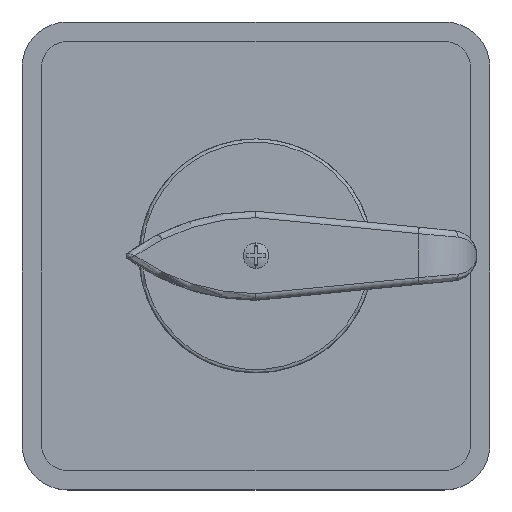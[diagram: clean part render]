
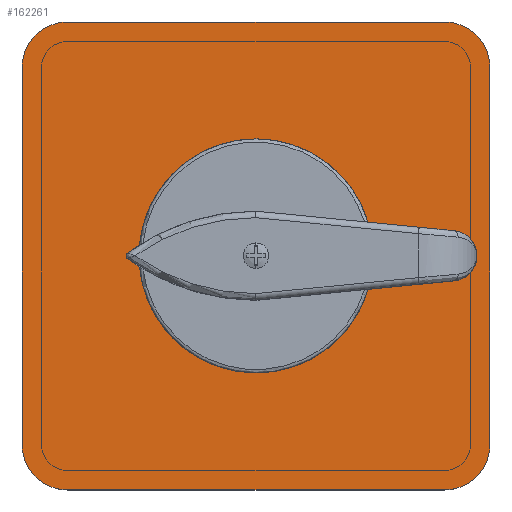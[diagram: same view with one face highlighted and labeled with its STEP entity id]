
A CAD part, top view. The second image highlights one B-rep face of the part: STEP entity #162261.
In plain terms, the highlighted planar face has unit normal (0, 0, 1).
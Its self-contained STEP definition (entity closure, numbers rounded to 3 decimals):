
#47844=CARTESIAN_POINT('',(29.,29.,3.35));
#47845=DIRECTION('',(0.,0.,1.));
#47846=DIRECTION('',(1.,0.,0.));
#47847=AXIS2_PLACEMENT_3D('',#47844,#47845,#47846);
#47849=DIRECTION('',(0.,1.,0.));
#47850=VECTOR('',#47849,58.);
#47851=CARTESIAN_POINT('',(36.,-29.,3.35));
#47852=LINE('',#47851,#47850);
#47853=CARTESIAN_POINT('',(29.,-29.,3.35));
#47854=DIRECTION('',(0.,0.,1.));
#47855=DIRECTION('',(0.,-1.,0.));
#47856=AXIS2_PLACEMENT_3D('',#47853,#47854,#47855);
#47858=DIRECTION('',(1.,0.,0.));
#47859=VECTOR('',#47858,58.);
#47860=CARTESIAN_POINT('',(-29.,-36.,3.35));
#47861=LINE('',#47860,#47859);
#47862=CARTESIAN_POINT('',(-29.,-29.,3.35));
#47863=DIRECTION('',(0.,0.,1.));
#47864=DIRECTION('',(-1.,0.,0.));
#47865=AXIS2_PLACEMENT_3D('',#47862,#47863,#47864);
#47867=DIRECTION('',(0.,-1.,0.));
#47868=VECTOR('',#47867,58.);
#47869=CARTESIAN_POINT('',(-36.,29.,3.35));
#47870=LINE('',#47869,#47868);
#47871=CARTESIAN_POINT('',(-29.,29.,3.35));
#47872=DIRECTION('',(0.,0.,1.));
#47873=DIRECTION('',(0.,1.,0.));
#47874=AXIS2_PLACEMENT_3D('',#47871,#47872,#47873);
#47876=DIRECTION('',(-1.,0.,0.));
#47877=VECTOR('',#47876,58.);
#47878=CARTESIAN_POINT('',(29.,36.,3.35));
#47879=LINE('',#47878,#47877);
#47880=DIRECTION('',(1.,0.,0.));
#47881=VECTOR('',#47880,8.);
#47882=CARTESIAN_POINT('',(-4.,4.,3.35));
#47883=LINE('',#47882,#47881);
#47892=DIRECTION('',(0.,-1.,0.));
#47893=VECTOR('',#47892,8.);
#47894=CARTESIAN_POINT('',(4.,4.,3.35));
#47895=LINE('',#47894,#47893);
#47904=DIRECTION('',(-1.,0.,0.));
#47905=VECTOR('',#47904,8.);
#47906=CARTESIAN_POINT('',(4.,-4.,3.35));
#47907=LINE('',#47906,#47905);
#47916=DIRECTION('',(0.,1.,0.));
#47917=VECTOR('',#47916,8.);
#47918=CARTESIAN_POINT('',(-4.,-4.,3.35));
#47919=LINE('',#47918,#47917);
#48767=CARTESIAN_POINT('',(0.,0.,3.35));
#48768=DIRECTION('',(0.,0.,1.));
#48769=DIRECTION('',(-0.947,0.322,0.));
#48770=AXIS2_PLACEMENT_3D('',#48767,#48768,#48769);
#48777=DIRECTION('',(-1.,0.,0.));
#48778=VECTOR('',#48777,1.727);
#48779=CARTESIAN_POINT('',(-8.52,-2.9,3.35));
#48780=LINE('',#48779,#48778);
#48802=CARTESIAN_POINT('',(0.,0.,3.35));
#48803=DIRECTION('',(0.,0.,1.));
#48804=DIRECTION('',(-0.962,0.272,0.));
#48805=AXIS2_PLACEMENT_3D('',#48802,#48803,#48804);
#48812=DIRECTION('',(1.,0.,0.));
#48813=VECTOR('',#48812,1.727);
#48814=CARTESIAN_POINT('',(-10.247,2.9,3.35));
#48815=LINE('',#48814,#48813);
#48837=CARTESIAN_POINT('',(0.,0.,3.35));
#48838=DIRECTION('',(0.,0.,1.));
#48839=DIRECTION('',(0.322,0.947,0.));
#48840=AXIS2_PLACEMENT_3D('',#48837,#48838,#48839);
#48847=DIRECTION('',(0.,1.,0.));
#48848=VECTOR('',#48847,1.727);
#48849=CARTESIAN_POINT('',(-2.9,8.52,3.35));
#48850=LINE('',#48849,#48848);
#48872=CARTESIAN_POINT('',(0.,0.,3.35));
#48873=DIRECTION('',(0.,0.,1.));
#48874=DIRECTION('',(0.272,0.962,0.));
#48875=AXIS2_PLACEMENT_3D('',#48872,#48873,#48874);
#48882=DIRECTION('',(0.,-1.,0.));
#48883=VECTOR('',#48882,1.727);
#48884=CARTESIAN_POINT('',(2.9,10.247,3.35));
#48885=LINE('',#48884,#48883);
#48907=CARTESIAN_POINT('',(0.,0.,3.35));
#48908=DIRECTION('',(0.,0.,1.));
#48909=DIRECTION('',(0.947,-0.322,0.));
#48910=AXIS2_PLACEMENT_3D('',#48907,#48908,#48909);
#48921=DIRECTION('',(1.,0.,0.));
#48922=VECTOR('',#48921,1.727);
#48923=CARTESIAN_POINT('',(8.52,2.9,3.35));
#48924=LINE('',#48923,#48922);
#48942=CARTESIAN_POINT('',(0.,0.,3.35));
#48943=DIRECTION('',(0.,0.,1.));
#48944=DIRECTION('',(0.962,-0.272,0.));
#48945=AXIS2_PLACEMENT_3D('',#48942,#48943,#48944);
#48952=DIRECTION('',(-1.,0.,0.));
#48953=VECTOR('',#48952,1.727);
#48954=CARTESIAN_POINT('',(10.247,-2.9,3.35));
#48955=LINE('',#48954,#48953);
#48977=CARTESIAN_POINT('',(0.,0.,3.35));
#48978=DIRECTION('',(0.,0.,1.));
#48979=DIRECTION('',(-0.322,-0.947,0.));
#48980=AXIS2_PLACEMENT_3D('',#48977,#48978,#48979);
#48987=DIRECTION('',(0.,-1.,0.));
#48988=VECTOR('',#48987,1.727);
#48989=CARTESIAN_POINT('',(2.9,-8.52,3.35));
#48990=LINE('',#48989,#48988);
#49012=CARTESIAN_POINT('',(0.,0.,3.35));
#49013=DIRECTION('',(0.,0.,1.));
#49014=DIRECTION('',(-0.272,-0.962,0.));
#49015=AXIS2_PLACEMENT_3D('',#49012,#49013,#49014);
#49022=DIRECTION('',(0.,1.,0.));
#49023=VECTOR('',#49022,1.727);
#49024=CARTESIAN_POINT('',(-2.9,-10.247,3.35));
#49025=LINE('',#49024,#49023);
#80133=CARTESIAN_POINT('',(36.,29.,3.35));
#80134=VERTEX_POINT('',#80133);
#80135=CARTESIAN_POINT('',(29.,36.,3.35));
#80136=VERTEX_POINT('',#80135);
#80141=CARTESIAN_POINT('',(29.,-36.,3.35));
#80142=VERTEX_POINT('',#80141);
#80143=CARTESIAN_POINT('',(36.,-29.,3.35));
#80144=VERTEX_POINT('',#80143);
#80149=CARTESIAN_POINT('',(-36.,-29.,3.35));
#80150=VERTEX_POINT('',#80149);
#80151=CARTESIAN_POINT('',(-29.,-36.,3.35));
#80152=VERTEX_POINT('',#80151);
#80157=CARTESIAN_POINT('',(-29.,36.,3.35));
#80158=VERTEX_POINT('',#80157);
#80159=CARTESIAN_POINT('',(-36.,29.,3.35));
#80160=VERTEX_POINT('',#80159);
#101601=CARTESIAN_POINT('',(-2.9,-8.52,3.35));
#101602=CARTESIAN_POINT('',(2.9,-8.52,3.35));
#101603=VERTEX_POINT('',#101601);
#101604=VERTEX_POINT('',#101602);
#101605=CARTESIAN_POINT('',(8.52,-2.9,3.35));
#101606=CARTESIAN_POINT('',(8.52,2.9,3.35));
#101607=VERTEX_POINT('',#101605);
#101608=VERTEX_POINT('',#101606);
#101609=CARTESIAN_POINT('',(2.9,8.52,3.35));
#101610=CARTESIAN_POINT('',(-2.9,8.52,3.35));
#101611=VERTEX_POINT('',#101609);
#101612=VERTEX_POINT('',#101610);
#101613=CARTESIAN_POINT('',(-8.52,2.9,3.35));
#101614=CARTESIAN_POINT('',(-8.52,-2.9,3.35));
#101615=VERTEX_POINT('',#101613);
#101616=VERTEX_POINT('',#101614);
#101633=CARTESIAN_POINT('',(10.247,-2.9,3.35));
#101634=VERTEX_POINT('',#101633);
#101637=CARTESIAN_POINT('',(10.247,2.9,3.35));
#101638=VERTEX_POINT('',#101637);
#101641=CARTESIAN_POINT('',(2.9,10.247,3.35));
#101642=VERTEX_POINT('',#101641);
#101645=CARTESIAN_POINT('',(-2.9,10.247,3.35));
#101646=VERTEX_POINT('',#101645);
#101649=CARTESIAN_POINT('',(-10.247,2.9,3.35));
#101650=VERTEX_POINT('',#101649);
#101653=CARTESIAN_POINT('',(-10.247,-2.9,3.35));
#101654=VERTEX_POINT('',#101653);
#101657=CARTESIAN_POINT('',(-2.9,-10.247,3.35));
#101658=VERTEX_POINT('',#101657);
#101661=CARTESIAN_POINT('',(2.9,-10.247,3.35));
#101662=VERTEX_POINT('',#101661);
#101665=CARTESIAN_POINT('',(-4.,4.,3.35));
#101666=CARTESIAN_POINT('',(4.,4.,3.35));
#101667=VERTEX_POINT('',#101665);
#101668=VERTEX_POINT('',#101666);
#101673=CARTESIAN_POINT('',(4.,-4.,3.35));
#101674=VERTEX_POINT('',#101673);
#101677=CARTESIAN_POINT('',(-4.,-4.,3.35));
#101678=VERTEX_POINT('',#101677);
#162196=CARTESIAN_POINT('',(0.,0.,3.35));
#162197=DIRECTION('',(0.,0.,1.));
#162198=DIRECTION('',(1.,0.,0.));
#162199=AXIS2_PLACEMENT_3D('',#162196,#162197,#162198);
#162200=PLANE('',#162199);
#162201=ORIENTED_EDGE('',*,*,#162092,.F.);
#162202=ORIENTED_EDGE('',*,*,#162108,.F.);
#162203=ORIENTED_EDGE('',*,*,#162121,.F.);
#162204=ORIENTED_EDGE('',*,*,#162136,.F.);
#162205=ORIENTED_EDGE('',*,*,#162149,.F.);
#162206=ORIENTED_EDGE('',*,*,#162164,.F.);
#162207=ORIENTED_EDGE('',*,*,#162177,.F.);
#162208=ORIENTED_EDGE('',*,*,#162189,.F.);
#162209=EDGE_LOOP('',(#162201,#162202,#162203,#162204,#162205,#162206,#162207,
#162208));
#162210=FACE_OUTER_BOUND('',#162209,.F.);
#162212=ORIENTED_EDGE('',*,*,#162211,.F.);
#162214=ORIENTED_EDGE('',*,*,#162213,.F.);
#162216=ORIENTED_EDGE('',*,*,#162215,.F.);
#162218=ORIENTED_EDGE('',*,*,#162217,.F.);
#162219=EDGE_LOOP('',(#162212,#162214,#162216,#162218));
#162220=FACE_BOUND('',#162219,.F.);
#162222=ORIENTED_EDGE('',*,*,#162221,.F.);
#162224=ORIENTED_EDGE('',*,*,#162223,.F.);
#162226=ORIENTED_EDGE('',*,*,#162225,.T.);
#162228=ORIENTED_EDGE('',*,*,#162227,.F.);
#162229=EDGE_LOOP('',(#162222,#162224,#162226,#162228));
#162230=FACE_BOUND('',#162229,.F.);
#162232=ORIENTED_EDGE('',*,*,#162231,.F.);
#162234=ORIENTED_EDGE('',*,*,#162233,.F.);
#162236=ORIENTED_EDGE('',*,*,#162235,.T.);
#162238=ORIENTED_EDGE('',*,*,#162237,.F.);
#162239=EDGE_LOOP('',(#162232,#162234,#162236,#162238));
#162240=FACE_BOUND('',#162239,.F.);
#162242=ORIENTED_EDGE('',*,*,#162241,.F.);
#162244=ORIENTED_EDGE('',*,*,#162243,.F.);
#162246=ORIENTED_EDGE('',*,*,#162245,.T.);
#162248=ORIENTED_EDGE('',*,*,#162247,.F.);
#162249=EDGE_LOOP('',(#162242,#162244,#162246,#162248));
#162250=FACE_BOUND('',#162249,.F.);
#162252=ORIENTED_EDGE('',*,*,#162251,.F.);
#162254=ORIENTED_EDGE('',*,*,#162253,.F.);
#162256=ORIENTED_EDGE('',*,*,#162255,.T.);
#162258=ORIENTED_EDGE('',*,*,#162257,.F.);
#162259=EDGE_LOOP('',(#162252,#162254,#162256,#162258));
#162260=FACE_BOUND('',#162259,.F.);
#162261=ADVANCED_FACE('',(#162210,#162220,#162230,#162240,#162250,#162260),
#162200,.T.);
#47848=CIRCLE('',#47847,7.);
#47857=CIRCLE('',#47856,7.);
#47866=CIRCLE('',#47865,7.);
#47875=CIRCLE('',#47874,7.);
#48771=CIRCLE('',#48770,9.);
#48806=CIRCLE('',#48805,10.65);
#48841=CIRCLE('',#48840,9.);
#48876=CIRCLE('',#48875,10.65);
#48911=CIRCLE('',#48910,9.);
#48946=CIRCLE('',#48945,10.65);
#48981=CIRCLE('',#48980,9.);
#49016=CIRCLE('',#49015,10.65);
#162092=EDGE_CURVE('',#80134,#80136,#47848,.T.);
#162108=EDGE_CURVE('',#80144,#80134,#47852,.T.);
#162121=EDGE_CURVE('',#80142,#80144,#47857,.T.);
#162136=EDGE_CURVE('',#80152,#80142,#47861,.T.);
#162149=EDGE_CURVE('',#80150,#80152,#47866,.T.);
#162164=EDGE_CURVE('',#80160,#80150,#47870,.T.);
#162177=EDGE_CURVE('',#80158,#80160,#47875,.T.);
#162189=EDGE_CURVE('',#80136,#80158,#47879,.T.);
#162211=EDGE_CURVE('',#101667,#101668,#47883,.T.);
#162213=EDGE_CURVE('',#101678,#101667,#47919,.T.);
#162215=EDGE_CURVE('',#101674,#101678,#47907,.T.);
#162217=EDGE_CURVE('',#101668,#101674,#47895,.T.);
#162221=EDGE_CURVE('',#101615,#101616,#48771,.T.);
#162223=EDGE_CURVE('',#101650,#101615,#48815,.T.);
#162225=EDGE_CURVE('',#101650,#101654,#48806,.T.);
#162227=EDGE_CURVE('',#101616,#101654,#48780,.T.);
#162231=EDGE_CURVE('',#101611,#101612,#48841,.T.);
#162233=EDGE_CURVE('',#101642,#101611,#48885,.T.);
#162235=EDGE_CURVE('',#101642,#101646,#48876,.T.);
#162237=EDGE_CURVE('',#101612,#101646,#48850,.T.);
#162241=EDGE_CURVE('',#101607,#101608,#48911,.T.);
#162243=EDGE_CURVE('',#101634,#101607,#48955,.T.);
#162245=EDGE_CURVE('',#101634,#101638,#48946,.T.);
#162247=EDGE_CURVE('',#101608,#101638,#48924,.T.);
#162251=EDGE_CURVE('',#101603,#101604,#48981,.T.);
#162253=EDGE_CURVE('',#101658,#101603,#49025,.T.);
#162255=EDGE_CURVE('',#101658,#101662,#49016,.T.);
#162257=EDGE_CURVE('',#101604,#101662,#48990,.T.);
